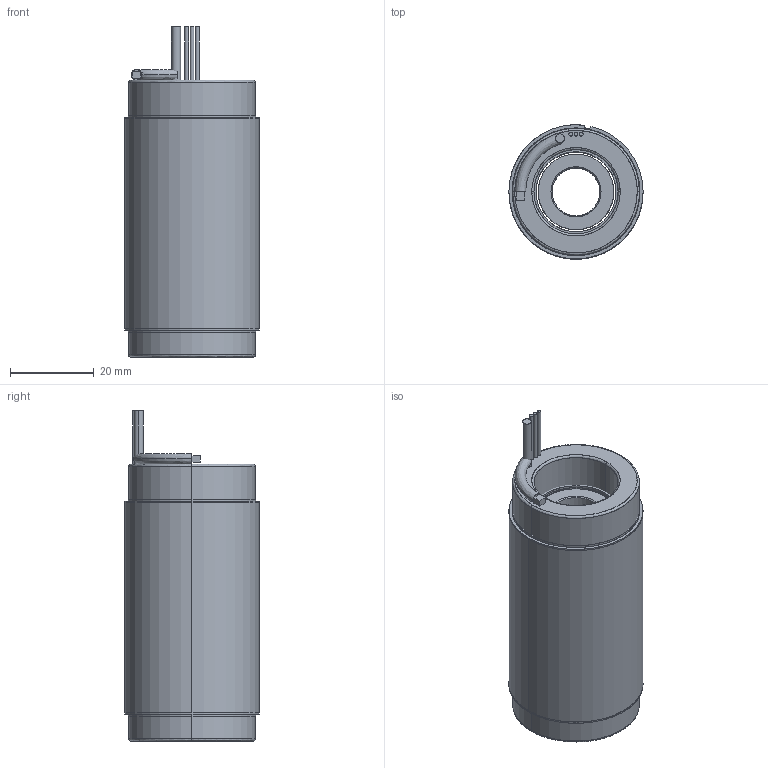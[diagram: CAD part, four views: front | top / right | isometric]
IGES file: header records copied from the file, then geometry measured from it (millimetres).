
Start section: SolidWorks IGES file using analytic representation for surfaces
Global section: file name: \\fs01.aveox.local\user documents\eng\My Documents\STANDARD STATOR ROTOR SETS\NEW DIRECT DRIVE MOTOR\1.26 OD 9s8p\6100335-05.IGS; native system: SolidWorks 2016; preprocessor: SolidWorks 2016; author: eng; date: 191023.130018; units: millimetre
Bounding box: 32 x 32 x 78.74 mm (x, y, z)
Surface area: 29768.1 mm2 (no closed solid volume)
Topology: 0 solids, 0 shells, 90 faces, 1744 edges, 1744 vertices
Faces by surface type: revolution 48, bspline 42
